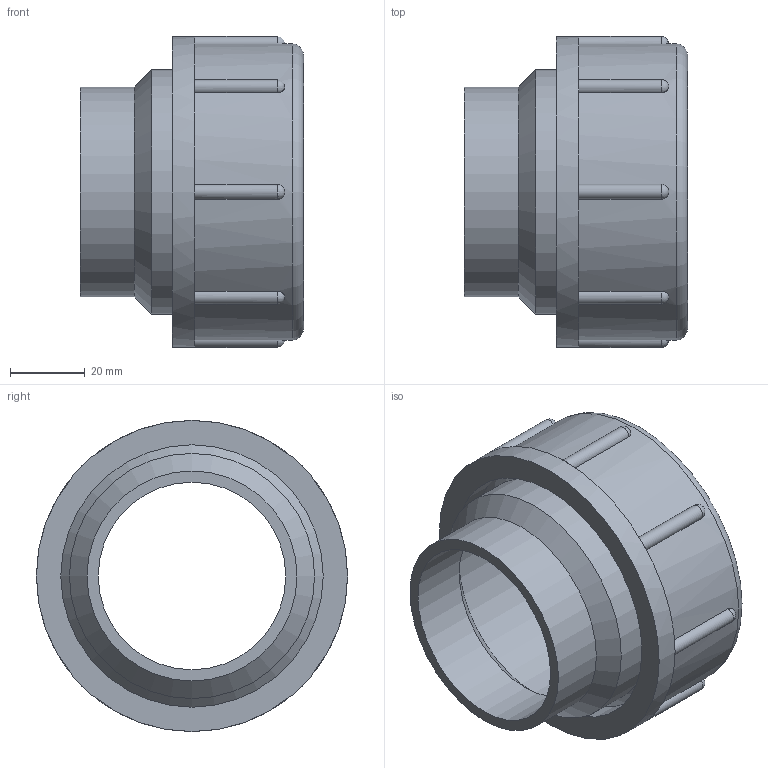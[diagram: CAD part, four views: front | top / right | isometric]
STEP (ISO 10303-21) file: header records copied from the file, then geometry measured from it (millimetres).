
FILE_DESCRIPTION((''),'2;1');
FILE_NAME('F:\Geberit_PE\Export\PE Verschraubung\stp\363740.stp','2011-03-17T20:58:43',(''),(''),'Autodesk Inventor 2011','Autodesk Inventor 2011','');
FILE_SCHEMA(('AUTOMOTIVE_DESIGN { 1 2 10303 214 0 1 1 1 }'));
Length unit declared in the file: millimetre
Products named in the file (1): 363740
Bounding box: 59.5 x 83 x 83 mm (x, y, z)
Volume: 94599 mm3; surface area: 38668.2 mm2
Topology: 2 solids, 2 shells, 51 faces, 139 edges, 83 vertices
Faces by surface type: cylinder 20, plane 14, cone 8, sphere 8, torus 1
Full cylindrical faces by diameter (mm): 50 x1, 56 x1, 56.8 x3, 65.4 x2, 65.9 x1, 70 x2, 79 x1, 83 x1
Entity records: 1660 total; most frequent: CARTESIAN_POINT 419, DIRECTION 272, ORIENTED_EDGE 216, AXIS2_PLACEMENT_3D 128, EDGE_CURVE 108, VERTEX_POINT 83, EDGE_LOOP 78, CIRCLE 76
